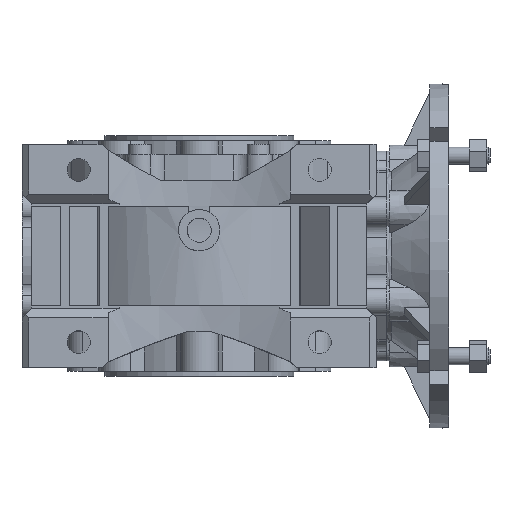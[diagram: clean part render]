
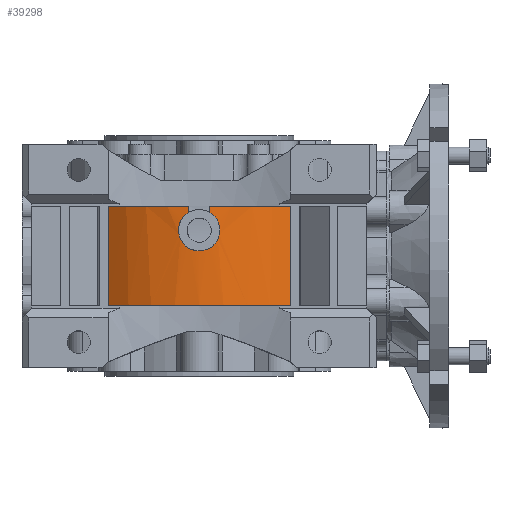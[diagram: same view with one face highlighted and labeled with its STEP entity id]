
A CAD part, front view. The second image highlights one B-rep face of the part: STEP entity #39298.
In plain terms, the highlighted cylindrical face has radius 86 mm (diameter 172 mm), a partial arc.
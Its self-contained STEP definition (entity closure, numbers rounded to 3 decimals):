
#503=B_SPLINE_CURVE_WITH_KNOTS('',3,(#56333,#56334,#56335,#56336,#56337,
#56338,#56339,#56340,#56341,#56342,#56343,#56344,#56345,#56346,#56347,#56348),
 .UNSPECIFIED.,.F.,.F.,(4,1,1,1,1,1,1,1,1,1,1,1,1,4),(0.044,
0.052,0.056,0.059,0.063,
0.067,0.071,0.075,0.083,
0.087,0.091,0.095,0.099,
0.106),.UNSPECIFIED.);
#686=CYLINDRICAL_SURFACE('',#41531,86.);
#1825=LINE('',#55326,#4311);
#1827=LINE('',#55329,#4313);
#2162=LINE('',#56331,#4648);
#2163=LINE('',#56350,#4649);
#4311=VECTOR('',#45520,1000.);
#4313=VECTOR('',#45524,1000.);
#4648=VECTOR('',#46467,1000.);
#4649=VECTOR('',#46468,1000.);
#8750=ORIENTED_EDGE('',*,*,#16383,.T.);
#8751=ORIENTED_EDGE('',*,*,#16384,.T.);
#8752=ORIENTED_EDGE('',*,*,#16385,.T.);
#8753=ORIENTED_EDGE('',*,*,#15874,.T.);
#8754=ORIENTED_EDGE('',*,*,#15887,.T.);
#8755=ORIENTED_EDGE('',*,*,#15854,.F.);
#8756=ORIENTED_EDGE('',*,*,#15885,.T.);
#8757=ORIENTED_EDGE('',*,*,#15106,.T.);
#15106=EDGE_CURVE('',#19324,#19322,#21967,.T.);
#15854=EDGE_CURVE('',#19880,#19881,#22144,.T.);
#15874=EDGE_CURVE('',#19894,#19897,#22152,.T.);
#15885=EDGE_CURVE('',#19880,#19324,#1825,.T.);
#15887=EDGE_CURVE('',#19897,#19881,#1827,.F.);
#16383=EDGE_CURVE('',#19322,#20226,#2162,.F.);
#16384=EDGE_CURVE('',#20226,#20227,#503,.T.);
#16385=EDGE_CURVE('',#20227,#19894,#2163,.T.);
#19322=VERTEX_POINT('',#53458);
#19324=VERTEX_POINT('',#53461);
#19880=VERTEX_POINT('',#55264);
#19881=VERTEX_POINT('',#55266);
#19894=VERTEX_POINT('',#55299);
#19897=VERTEX_POINT('',#55305);
#20226=VERTEX_POINT('',#56332);
#20227=VERTEX_POINT('',#56349);
#21967=CIRCLE('',#40806,86.);
#22144=CIRCLE('',#41205,86.);
#22152=CIRCLE('',#41217,86.);
#23527=EDGE_LOOP('',(#8750,#8751,#8752,#8753,#8754,#8755,#8756,#8757));
#25459=FACE_BOUND('',#23527,.T.);
#39298=ADVANCED_FACE('',(#25459),#686,.T.);
#40806=AXIS2_PLACEMENT_3D('',#53460,#44242,#44243);
#41205=AXIS2_PLACEMENT_3D('',#55265,#45460,#45461);
#41217=AXIS2_PLACEMENT_3D('',#55306,#45496,#45497);
#41531=AXIS2_PLACEMENT_3D('',#56330,#46465,#46466);
#44242=DIRECTION('',(0.,0.,1.));
#44243=DIRECTION('',(1.,0.,0.));
#45460=DIRECTION('',(0.,0.,1.));
#45461=DIRECTION('',(1.,0.,0.));
#45496=DIRECTION('',(0.,0.,1.));
#45497=DIRECTION('',(1.,0.,0.));
#45520=DIRECTION('',(0.,0.,-1.));
#45524=DIRECTION('',(0.,0.,-1.));
#46465=DIRECTION('',(0.,0.,-1.));
#46466=DIRECTION('',(-1.,0.,0.));
#46467=DIRECTION('',(0.,0.,-1.));
#46468=DIRECTION('',(0.,0.,-1.));
#53458=CARTESIAN_POINT('',(-6.,-85.79,-29.));
#53460=CARTESIAN_POINT('',(0.,0.,-29.));
#53461=CARTESIAN_POINT('',(-53.,-67.727,-29.));
#55264=CARTESIAN_POINT('',(-53.,-67.727,29.));
#55265=CARTESIAN_POINT('',(0.,0.,29.));
#55266=CARTESIAN_POINT('',(53.,-67.727,29.));
#55299=CARTESIAN_POINT('',(6.,-85.79,-29.));
#55305=CARTESIAN_POINT('',(53.,-67.727,-29.));
#55306=CARTESIAN_POINT('',(0.,0.,-29.));
#55326=CARTESIAN_POINT('',(-53.,-67.727,29.));
#55329=CARTESIAN_POINT('',(53.,-67.727,29.));
#56330=CARTESIAN_POINT('',(0.,0.,29.));
#56331=CARTESIAN_POINT('',(-6.,-85.79,29.));
#56332=CARTESIAN_POINT('',(-6.,-85.79,-25.392));
#56333=CARTESIAN_POINT('',(-6.,-85.79,-25.392));
#56334=CARTESIAN_POINT('',(-8.276,-85.631,-24.078));
#56335=CARTESIAN_POINT('',(-10.981,-85.304,-20.981));
#56336=CARTESIAN_POINT('',(-12.19,-85.131,-15.806));
#56337=CARTESIAN_POINT('',(-11.801,-85.188,-11.84));
#56338=CARTESIAN_POINT('',(-10.159,-85.407,-8.216));
#56339=CARTESIAN_POINT('',(-7.442,-85.697,-5.314));
#56340=CARTESIAN_POINT('',(-3.945,-85.937,-3.437));
#56341=CARTESIAN_POINT('',(1.337,-86.065,-2.558));
#56342=CARTESIAN_POINT('',(6.541,-85.796,-4.343));
#56343=CARTESIAN_POINT('',(10.159,-85.407,-8.217));
#56344=CARTESIAN_POINT('',(11.8,-85.188,-11.839));
#56345=CARTESIAN_POINT('',(12.19,-85.131,-15.804));
#56346=CARTESIAN_POINT('',(10.984,-85.304,-20.979));
#56347=CARTESIAN_POINT('',(8.266,-85.632,-24.084));
#56348=CARTESIAN_POINT('',(6.,-85.79,-25.392));
#56349=CARTESIAN_POINT('',(6.,-85.79,-25.392));
#56350=CARTESIAN_POINT('',(6.,-85.79,29.));
